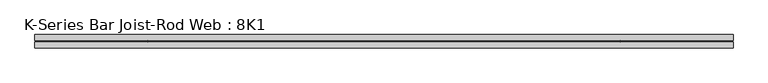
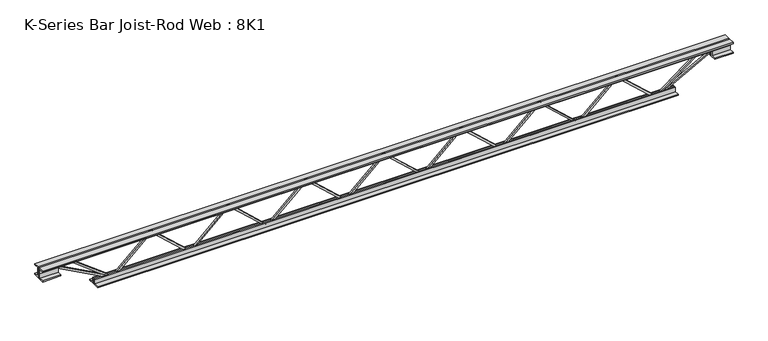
"""IFC4 building model written with IfcOpenShell, lengths in millimetres: beam geometry, K-Series Bar Joist-Rod Web : 8K1."""

from ifc_helpers import new_model, si_unit, frame, origin, place, context, project, spatial, polyline, outline, extrude, source, transform, mapped, element, save


def k_series_bar_joist_rod_web_8k1_022d90c5(model_context):
    return source(origin(), model_context, "Body", "SweptSolid", [
        extrude(outline(polyline([(-90.4875, 644.6574045), (-100.0125, 644.6574045), (-100.0125, 649.6802342), (90.4875, 858.2160357), (90.4875, 860.8703764), (-100.0125, 1069.4061779), (-100.0125, 1074.4290076), (-90.4875, 1074.4290076), (-90.4875, 1073.1018372), (100.0125, 864.5660357), (100.0125, 854.5203764), (-90.4875, 645.9845749), (-90.4875, 644.6574045)])), frame((0.0, -4.7625, 0.0), z_axis=(0.0, 1.0, 0.0), x_axis=(0.0, 0.0, 1.0)), (0.0, 0.0, 1.0), 9.525),
        extrude(outline(polyline([(-90.4875, 214.8858015), (-100.0125, 214.8858015), (-100.0125, 219.9086312), (90.4875, 428.4444327), (90.4875, 431.0987734), (-100.0125, 639.6345749), (-100.0125, 644.6574045), (-90.4875, 644.6574045), (-90.4875, 643.3302342), (100.0125, 434.7944327), (100.0125, 424.7487734), (-90.4875, 216.2129719), (-90.4875, 214.8858015)])), frame((0.0, -4.7625, 0.0), z_axis=(0.0, 1.0, 0.0), x_axis=(0.0, 0.0, 1.0)), (0.0, 0.0, 1.0), 9.525),
        extrude(outline(polyline([(-90.4875, -214.8858015), (-100.0125, -214.8858015), (-100.0125, -209.8629719), (90.4875, -1.3271704), (90.4875, 1.3271704), (-100.0125, 209.8629719), (-100.0125, 214.8858015), (-90.4875, 214.8858015), (-90.4875, 213.5586312), (100.0125, 5.0228296), (100.0125, -5.0228296), (-90.4875, -213.5586312), (-90.4875, -214.8858015)])), frame((0.0, -4.7625, 0.0), z_axis=(0.0, 1.0, 0.0), x_axis=(0.0, 0.0, 1.0)), (0.0, 0.0, 1.0), 9.525),
        extrude(outline(polyline([(-90.4875, -644.6574045), (-100.0125, -644.6574045), (-100.0125, -639.6345749), (90.4875, -431.0987734), (90.4875, -428.4444327), (-100.0125, -219.9086312), (-100.0125, -214.8858015), (-90.4875, -214.8858015), (-90.4875, -216.2129719), (100.0125, -424.7487734), (100.0125, -434.7944327), (-90.4875, -643.3302342), (-90.4875, -644.6574045)])), frame((0.0, -4.7625, 0.0), z_axis=(0.0, 1.0, 0.0), x_axis=(0.0, 0.0, 1.0)), (0.0, 0.0, 1.0), 9.525),
        extrude(outline(polyline([(-90.4875, -1074.4290076), (-100.0125, -1074.4290076), (-100.0125, -1069.4061779), (90.4875, -860.8703764), (90.4875, -858.2160357), (-100.0125, -649.6802342), (-100.0125, -644.6574045), (-90.4875, -644.6574045), (-90.4875, -645.9845749), (100.0125, -854.5203764), (100.0125, -864.5660357), (-90.4875, -1073.1018372), (-90.4875, -1074.4290076)])), frame((0.0, -4.7625, 0.0), z_axis=(0.0, 1.0, 0.0), x_axis=(0.0, 0.0, 1.0)), (0.0, 0.0, 1.0), 9.525),
        extrude(outline(polyline([(-90.4875, 1074.4290076), (-100.0125, 1074.4290076), (-100.0125, 1079.4518372), (90.4875, 1287.9876387), (90.4875, 1290.6419794), (-100.0125, 1499.1777809), (-100.0125, 1504.2006106), (-90.4875, 1504.2006106), (-90.4875, 1502.8734402), (100.0125, 1294.3376387), (100.0125, 1284.2919794), (-90.4875, 1075.7561779), (-90.4875, 1074.4290076)])), frame((0.0, -4.7625, 0.0), z_axis=(0.0, 1.0, 0.0), x_axis=(0.0, 0.0, 1.0)), (0.0, 0.0, 1.0), 9.525),
        extrude(outline(polyline([(-90.4875, -1504.2006106), (-100.0125, -1504.2006106), (-100.0125, -1499.1777809), (90.4875, -1290.6419794), (90.4875, -1287.9876387), (-100.0125, -1079.4518372), (-100.0125, -1074.4290076), (-90.4875, -1074.4290076), (-90.4875, -1075.7561779), (100.0125, -1284.2919794), (100.0125, -1294.3376387), (-90.4875, -1502.8734402), (-90.4875, -1504.2006106)])), frame((0.0, -4.7625, 0.0), z_axis=(0.0, 1.0, 0.0), x_axis=(0.0, 0.0, 1.0)), (0.0, 0.0, 1.0), 9.525),
        extrude(outline(polyline([(4.7625, 101.6), (36.5125, 101.6), (36.5125, 95.25), (11.1125, 95.25), (11.1125, 69.85), (4.7625, 69.85), (4.7625, 101.6)])), frame((-1910.6006106, 0.0, 0.0), z_axis=(1.0, 0.0, 0.0), x_axis=(0.0, 1.0, 0.0)), (0.0, 0.0, 1.0), 3821.2012212),
        extrude(outline(polyline([(-4.7625, 101.6), (-4.7625, 69.85), (-11.1125, 69.85), (-11.1125, 95.25), (-36.5125, 95.25), (-36.5125, 101.6), (-4.7625, 101.6)])), frame((-1910.6006106, 0.0, 0.0), z_axis=(1.0, 0.0, 0.0), x_axis=(0.0, 1.0, 0.0)), (0.0, 0.0, 1.0), 3821.2012212),
        extrude(outline(polyline([(-4.7625, 38.1), (-36.5125, 38.1), (-36.5125, 44.45), (-11.1125, 44.45), (-11.1125, 69.85), (-4.7625, 69.85), (-4.7625, 38.1)])), frame((-1910.6006106, 0.0, 0.0), z_axis=(1.0, 0.0, 0.0), x_axis=(0.0, 1.0, 0.0)), (0.0, 0.0, 1.0), 101.6),
        extrude(outline(polyline([(36.5125, 38.1), (4.7625, 38.1), (4.7625, 69.85), (11.1125, 69.85), (11.1125, 44.45), (36.5125, 44.45), (36.5125, 38.1)])), frame((-1910.6006106, 0.0, 0.0), z_axis=(1.0, 0.0, 0.0), x_axis=(0.0, 1.0, 0.0)), (0.0, 0.0, 1.0), 101.6),
        extrude(outline(polyline([(4.7625, 38.1), (4.7625, 69.85), (11.1125, 69.85), (11.1125, 44.45), (36.5125, 44.45), (36.5125, 38.1), (4.7625, 38.1)])), frame((1809.0006106, 0.0, 0.0), z_axis=(1.0, 0.0, 0.0), x_axis=(0.0, 1.0, 0.0)), (0.0, 0.0, 1.0), 101.6),
        extrude(outline(polyline([(-4.7625, 38.1), (-36.5125, 38.1), (-36.5125, 44.45), (-11.1125, 44.45), (-11.1125, 69.85), (-4.7625, 69.85), (-4.7625, 38.1)])), frame((1809.0006106, 0.0, 0.0), z_axis=(1.0, 0.0, 0.0), x_axis=(0.0, 1.0, 0.0)), (0.0, 0.0, 1.0), 101.6),
        extrude(outline(polyline([(4.7625, -101.6), (4.7625, -69.85), (11.1125, -69.85), (11.1125, -95.25), (36.5125, -95.25), (36.5125, -101.6), (4.7625, -101.6)])), frame((-1605.8006106, 0.0, 0.0), z_axis=(1.0, 0.0, 0.0), x_axis=(0.0, 1.0, 0.0)), (0.0, 0.0, 1.0), 3211.6012212),
        extrude(outline(polyline([(-4.7625, -101.6), (-36.5125, -101.6), (-36.5125, -95.25), (-11.1125, -95.25), (-11.1125, -69.85), (-4.7625, -69.85), (-4.7625, -101.6)])), frame((-1605.8006106, 0.0, 0.0), z_axis=(1.0, 0.0, 0.0), x_axis=(0.0, 1.0, 0.0)), (0.0, 0.0, 1.0), 3211.6012212),
        extrude(outline(polyline([(0.0, -9.525), (0.0, 0.0), (346.6425392, 0.0), (346.6425392, -9.525), (0.0, -9.525)])), frame((-1811.2689091, 4.7625, 65.662372), z_axis=(0.47628314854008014, 0.0, 0.8792919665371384), x_axis=(0.8792919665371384, 0.0, -0.47628314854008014)), (0.0, 0.0, 1.0), 9.525),
        extrude(outline(polyline([(0.0, -9.525), (0.0, 0.0), (270.9869327, 0.0), (270.9869327, -9.525), (0.0, -9.525)])), frame((-1721.9879865, 4.7625, 66.0734576), z_axis=(0.6092544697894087, 0.0, 0.7929747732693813), x_axis=(0.7929747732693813, 0.0, -0.6092544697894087)), (0.0, 0.0, 1.0), 9.525),
        extrude(outline(polyline([(0.0, -9.525), (0.0, 0.0), (346.6425392, 0.0), (346.6425392, -9.525), (0.0, -9.525)])), frame((1811.2689091, -4.7625, 65.662372), z_axis=(-0.47628314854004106, 0.0, 0.8792919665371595), x_axis=(-0.8792919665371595, 0.0, -0.47628314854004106)), (0.0, 0.0, 1.0), 9.525),
        extrude(outline(polyline([(0.0, -9.525), (0.0, 0.0), (270.9869327, 0.0), (270.9869327, -9.525), (0.0, -9.525)])), frame((1721.9879865, -4.7625, 66.0734576), z_axis=(-0.6092544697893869, 0.0, 0.792974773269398), x_axis=(-0.792974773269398, 0.0, -0.6092544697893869)), (0.0, 0.0, 1.0), 9.525),
    ])


if __name__ == "__main__":
    model = new_model("IFC4")
    model_context = context("Model", 3, world=origin())
    ifc_project = project(units=[si_unit("LENGTHUNIT", "METRE", prefix="MILLI")], contexts=[model_context])
    site = spatial("IfcSite", under=ifc_project)
    building = spatial("IfcBuilding", under=site)
    placement = place(None, origin())
    k_series_bar_joist_rod_web_8k1_shape = k_series_bar_joist_rod_web_8k1_022d90c5(model_context)
    element("IfcBeam", 1, ObjectType="K-Series Bar Joist-Rod Web : 8K1", at=placement, inside=building, context=model_context, shape_type="MappedRepresentation", body=[
        mapped(k_series_bar_joist_rod_web_8k1_shape, transform((0.0, 0.0, 0.0), x_axis=(1.0, 0.0, 0.0), y_axis=(0.0, 1.0, 0.0), z_axis=(0.0, 0.0, 1.0))),
    ])
    save(model, "model.ifc")
